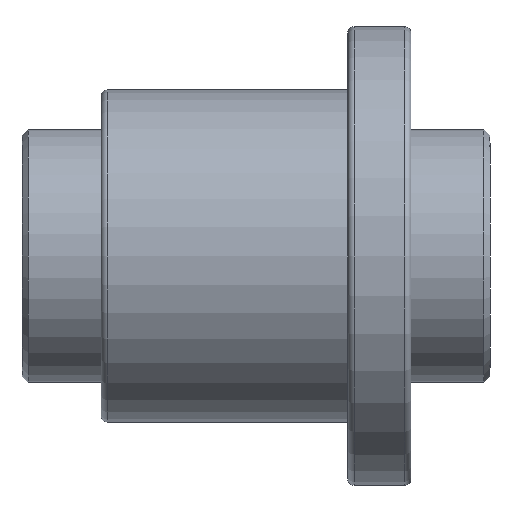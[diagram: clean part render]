
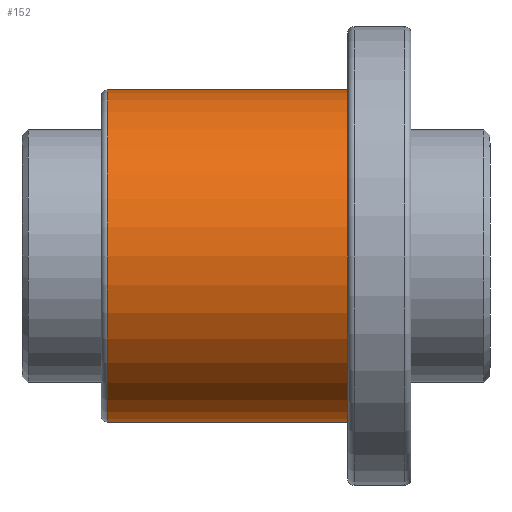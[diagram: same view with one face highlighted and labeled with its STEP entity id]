
A CAD part, front view. The second image highlights one B-rep face of the part: STEP entity #152.
In plain terms, the highlighted cylindrical face has radius 52.5 mm (diameter 105 mm), a full revolution.
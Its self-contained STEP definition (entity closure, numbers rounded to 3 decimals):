
#152=ADVANCED_FACE('',(#231,#232),#174,.T.);
#174=CYLINDRICAL_SURFACE('',#598,52.5);
#231=FACE_BOUND('',#309,.T.);
#232=FACE_BOUND('',#310,.T.);
#309=EDGE_LOOP('',(#391));
#310=EDGE_LOOP('',(#392));
#391=ORIENTED_EDGE('',*,*,#494,.T.);
#392=ORIENTED_EDGE('',*,*,#475,.F.);
#434=VERTEX_POINT('',#812);
#453=VERTEX_POINT('',#861);
#475=EDGE_CURVE('',#434,#434,#516,.T.);
#494=EDGE_CURVE('',#453,#453,#535,.T.);
#516=CIRCLE('',#566,52.5);
#535=CIRCLE('',#596,52.5);
#566=AXIS2_PLACEMENT_3D('',#811,#668,#669);
#596=AXIS2_PLACEMENT_3D('',#860,#728,#729);
#598=AXIS2_PLACEMENT_3D('',#863,#732,#733);
#668=DIRECTION('',(1.,0.,0.));
#669=DIRECTION('',(0.,1.,0.));
#728=DIRECTION('',(1.,0.,0.));
#729=DIRECTION('',(0.,1.,0.));
#732=DIRECTION('',(1.,0.,0.));
#733=DIRECTION('',(0.,1.,0.));
#811=CARTESIAN_POINT('',(-45.,0.,0.));
#812=CARTESIAN_POINT('',(-45.,52.5,0.));
#860=CARTESIAN_POINT('',(-121.,0.,0.));
#861=CARTESIAN_POINT('',(-121.,52.5,0.));
#863=CARTESIAN_POINT('',(-148.,0.,0.));
